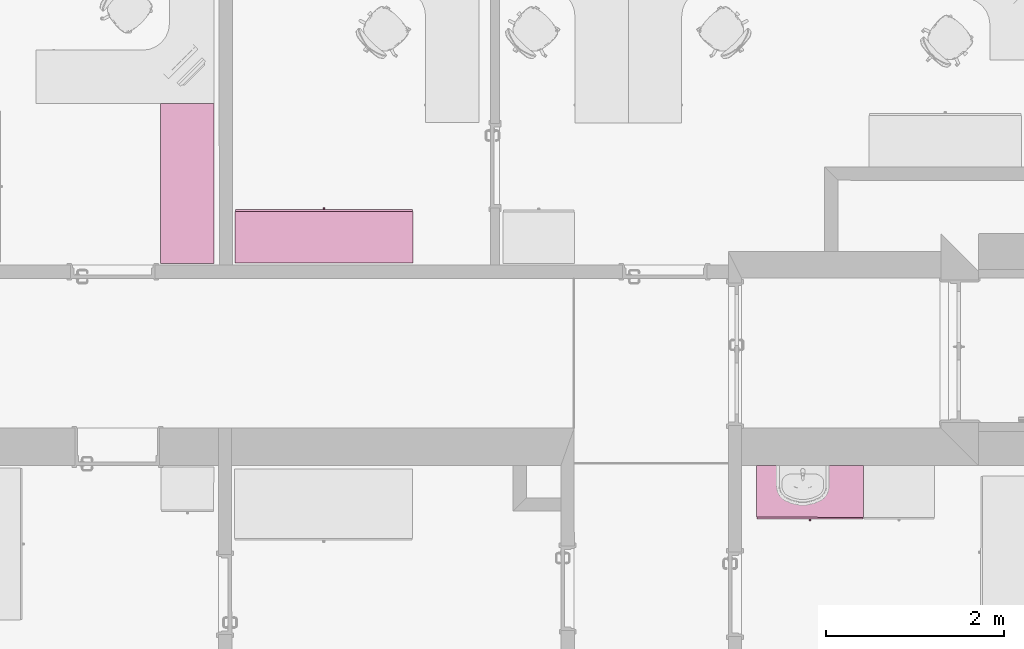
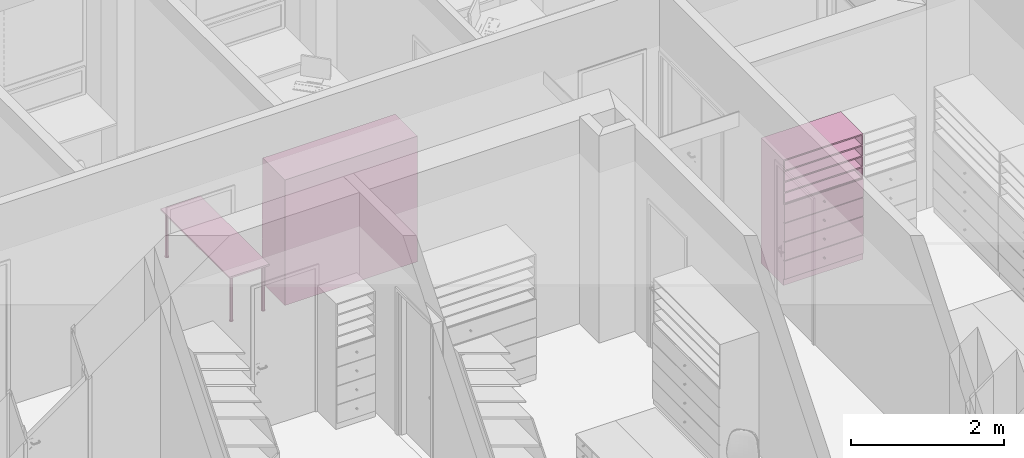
# One storey, part 186 of 194: 3 furnishings.
"""IFC2X3 building model written with IfcOpenShell, lengths in millimetres."""

from ifc_helpers import new_model, entity, si_unit, converted_unit, derived_unit, money_unit, direction, frame, origin_with_axes, place, context, subcontext, project, spatial, faceted_brep, type_object, element, save


model = new_model("IFC2X3")

# Units and contexts
model_context = context("Model", 3, precision=1e-05, world=origin_with_axes(), true_north=direction((0.0, 1.0)))
body_context = subcontext(model_context, "Body", "Model", "MODEL_VIEW")
ifc_project = project(units=[si_unit("LENGTHUNIT", "METRE", prefix="MILLI"), si_unit("AREAUNIT", "SQUARE_METRE"), si_unit("VOLUMEUNIT", "CUBIC_METRE"), converted_unit("PLANEANGLEUNIT", "DEGREE", entity("IfcPlaneAngleMeasure", 0.0174532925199), si_unit("PLANEANGLEUNIT", "RADIAN"), dimensions=[0, 0, 0, 0, 0, 0, 0]), si_unit("SOLIDANGLEUNIT", "STERADIAN"), money_unit("EUR"), converted_unit("TIMEUNIT", "Year", entity("IfcTimeMeasure", 31556926.0), si_unit("TIMEUNIT", "SECOND"), dimensions=[0, 0, 1, 0, 0, 0, 0]), si_unit("MASSUNIT", "GRAM", prefix="KILO"), si_unit("THERMODYNAMICTEMPERATUREUNIT", "DEGREE_CELSIUS"), si_unit("LUMINOUSINTENSITYUNIT", "LUMEN"), si_unit("ENERGYUNIT", "JOULE", prefix="MEGA"), derived_unit("THERMALCONDUCTANCEUNIT", [(si_unit("POWERUNIT", "WATT"), 1), (si_unit("LENGTHUNIT", "METRE"), -1), (si_unit("THERMODYNAMICTEMPERATUREUNIT", "KELVIN"), -1)]), derived_unit("SPECIFICHEATCAPACITYUNIT", [(si_unit("ENERGYUNIT", "JOULE"), 1), (si_unit("MASSUNIT", "GRAM", prefix="KILO"), -1), (si_unit("THERMODYNAMICTEMPERATUREUNIT", "KELVIN"), -1)]), derived_unit("MASSDENSITYUNIT", [(si_unit("MASSUNIT", "GRAM", prefix="KILO"), 1), (si_unit("VOLUMEUNIT", "CUBIC_METRE"), -1)])], contexts=[model_context])

# Site, building, storey
site_placement = place(None, origin_with_axes())
site = spatial("IfcSite", under=ifc_project, at=site_placement, Name="Site", CompositionType="ELEMENT")
building_placement = place(site_placement, origin_with_axes())
building = spatial("IfcBuilding", under=site, at=building_placement, Name="Building", CompositionType="ELEMENT")
storey_placement = place(building_placement, frame((0.0, 0.0, 3000.0), z_axis=(0.0, 0.0, 1.0), x_axis=(1.0, 0.0, 0.0)))
storey = spatial("IfcBuildingStorey", under=building, at=storey_placement, Name="2 KORRUS", CompositionType="ELEMENT", Elevation=3000.0)

# Furnishings
furnishing_element_type_1 = type_object("IfcFurnishingElementType", Name="Model Element 111")
furnishing_1_placement = place(storey_placement, frame((33351.9675321, 69279.1031344, 0.0), z_axis=(0.0, 0.0, 1.0), x_axis=(0.0, -1.0, 0.0)))
element("IfcFurnishingElement", 1, at=furnishing_1_placement, inside=storey, type_object=furnishing_element_type_1, Name="FU - 007", context=body_context, shape_type="Brep", body=[
    faceted_brep([(0.0, 0.0, 725.0), (1800.0, 0.0, 725.0), (1800.0, 0.0, 750.0), (0.0, 0.0, 750.0), (0.0, 600.0, 725.0), (1800.0, 600.0, 725.0), (1800.0, 600.0, 750.0), (0.0, 600.0, 750.0)], [[[0, 1, 2, 3]], [[0, 4, 5, 1]], [[1, 5, 6, 2]], [[3, 2, 6, 7]], [[4, 0, 3, 7]], [[5, 4, 7, 6]]]),
    faceted_brep([(77.6776695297, 77.6776695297, 10.0), (85.0, 60.0, 10.0), (77.6776695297, 42.3223304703, 10.0), (60.0, 35.0, 10.0), (42.3223304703, 42.3223304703, 10.0), (35.0, 60.0, 10.0), (42.3223304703, 77.6776695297, 10.0), (60.0, 85.0, 10.0), (77.6776695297, 77.6776695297, 725.0), (85.0, 60.0, 725.0), (77.6776695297, 42.3223304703, 725.0), (60.0, 35.0, 725.0), (42.3223304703, 42.3223304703, 725.0), (35.0, 60.0, 725.0), (42.3223304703, 77.6776695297, 725.0), (60.0, 85.0, 725.0)], [[[0, 1, 2, 3, 4, 5, 6, 7]], [[1, 0, 8, 9]], [[2, 1, 9, 10]], [[3, 2, 10, 11]], [[4, 3, 11, 12]], [[5, 4, 12, 13]], [[6, 5, 13, 14]], [[7, 6, 14, 15]], [[0, 7, 15, 8]], [[8, 15, 14, 13, 12, 11, 10, 9]]]),
    faceted_brep([(81.2132034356, 81.2132034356, 0.0), (90.0, 60.0, 0.0), (81.2132034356, 38.7867965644, 0.0), (60.0, 30.0, 0.0), (38.7867965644, 38.7867965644, 0.0), (30.0, 60.0, 0.0), (38.7867965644, 81.2132034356, 0.0), (60.0, 90.0, 0.0), (81.2132034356, 81.2132034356, 10.0), (90.0, 60.0, 10.0), (81.2132034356, 38.7867965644, 10.0), (60.0, 30.0, 10.0), (38.7867965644, 38.7867965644, 10.0), (30.0, 60.0, 10.0), (38.7867965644, 81.2132034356, 10.0), (60.0, 90.0, 10.0)], [[[0, 1, 2, 3, 4, 5, 6, 7]], [[1, 0, 8, 9]], [[2, 1, 9, 10]], [[3, 2, 10, 11]], [[4, 3, 11, 12]], [[5, 4, 12, 13]], [[6, 5, 13, 14]], [[7, 6, 14, 15]], [[0, 7, 15, 8]], [[8, 15, 14, 13, 12, 11, 10, 9]]]),
    faceted_brep([(77.6776695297, 557.67766953, 10.0), (85.0, 540.0, 10.0), (77.6776695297, 522.32233047, 10.0), (60.0, 515.0, 10.0), (42.3223304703, 522.32233047, 10.0), (35.0, 540.0, 10.0), (42.3223304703, 557.67766953, 10.0), (60.0, 565.0, 10.0), (77.6776695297, 557.67766953, 725.0), (85.0, 540.0, 725.0), (77.6776695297, 522.32233047, 725.0), (60.0, 515.0, 725.0), (42.3223304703, 522.32233047, 725.0), (35.0, 540.0, 725.0), (42.3223304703, 557.67766953, 725.0), (60.0, 565.0, 725.0)], [[[0, 1, 2, 3, 4, 5, 6, 7]], [[1, 0, 8, 9]], [[2, 1, 9, 10]], [[3, 2, 10, 11]], [[4, 3, 11, 12]], [[5, 4, 12, 13]], [[6, 5, 13, 14]], [[7, 6, 14, 15]], [[0, 7, 15, 8]], [[8, 15, 14, 13, 12, 11, 10, 9]]]),
    faceted_brep([(81.2132034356, 561.213203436, 0.0), (90.0, 540.0, 0.0), (81.2132034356, 518.786796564, 0.0), (60.0, 510.0, 0.0), (38.7867965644, 518.786796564, 0.0), (30.0, 540.0, 0.0), (38.7867965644, 561.213203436, 0.0), (60.0, 570.0, 0.0), (81.2132034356, 561.213203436, 10.0), (90.0, 540.0, 10.0), (81.2132034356, 518.786796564, 10.0), (60.0, 510.0, 10.0), (38.7867965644, 518.786796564, 10.0), (30.0, 540.0, 10.0), (38.7867965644, 561.213203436, 10.0), (60.0, 570.0, 10.0)], [[[0, 1, 2, 3, 4, 5, 6, 7]], [[1, 0, 8, 9]], [[2, 1, 9, 10]], [[3, 2, 10, 11]], [[4, 3, 11, 12]], [[5, 4, 12, 13]], [[6, 5, 13, 14]], [[7, 6, 14, 15]], [[0, 7, 15, 8]], [[8, 15, 14, 13, 12, 11, 10, 9]]]),
    faceted_brep([(1757.67766953, 77.6776695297, 10.0), (1765.0, 60.0, 10.0), (1757.67766953, 42.3223304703, 10.0), (1740.0, 35.0, 10.0), (1722.32233047, 42.3223304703, 10.0), (1715.0, 60.0, 10.0), (1722.32233047, 77.6776695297, 10.0), (1740.0, 85.0, 10.0), (1757.67766953, 77.6776695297, 725.0), (1765.0, 60.0, 725.0), (1757.67766953, 42.3223304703, 725.0), (1740.0, 35.0, 725.0), (1722.32233047, 42.3223304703, 725.0), (1715.0, 60.0, 725.0), (1722.32233047, 77.6776695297, 725.0), (1740.0, 85.0, 725.0)], [[[0, 1, 2, 3, 4, 5, 6, 7]], [[1, 0, 8, 9]], [[2, 1, 9, 10]], [[3, 2, 10, 11]], [[4, 3, 11, 12]], [[5, 4, 12, 13]], [[6, 5, 13, 14]], [[7, 6, 14, 15]], [[0, 7, 15, 8]], [[8, 15, 14, 13, 12, 11, 10, 9]]]),
    faceted_brep([(1761.21320344, 81.2132034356, 0.0), (1770.0, 60.0, 0.0), (1761.21320344, 38.7867965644, 0.0), (1740.0, 30.0, 0.0), (1718.78679656, 38.7867965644, 0.0), (1710.0, 60.0, 0.0), (1718.78679656, 81.2132034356, 0.0), (1740.0, 90.0, 0.0), (1761.21320344, 81.2132034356, 10.0), (1770.0, 60.0, 10.0), (1761.21320344, 38.7867965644, 10.0), (1740.0, 30.0, 10.0), (1718.78679656, 38.7867965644, 10.0), (1710.0, 60.0, 10.0), (1718.78679656, 81.2132034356, 10.0), (1740.0, 90.0, 10.0)], [[[0, 1, 2, 3, 4, 5, 6, 7]], [[1, 0, 8, 9]], [[2, 1, 9, 10]], [[3, 2, 10, 11]], [[4, 3, 11, 12]], [[5, 4, 12, 13]], [[6, 5, 13, 14]], [[7, 6, 14, 15]], [[0, 7, 15, 8]], [[8, 15, 14, 13, 12, 11, 10, 9]]]),
    faceted_brep([(1757.67766953, 557.67766953, 10.0), (1765.0, 540.0, 10.0), (1757.67766953, 522.32233047, 10.0), (1740.0, 515.0, 10.0), (1722.32233047, 522.32233047, 10.0), (1715.0, 540.0, 10.0), (1722.32233047, 557.67766953, 10.0), (1740.0, 565.0, 10.0), (1757.67766953, 557.67766953, 725.0), (1765.0, 540.0, 725.0), (1757.67766953, 522.32233047, 725.0), (1740.0, 515.0, 725.0), (1722.32233047, 522.32233047, 725.0), (1715.0, 540.0, 725.0), (1722.32233047, 557.67766953, 725.0), (1740.0, 565.0, 725.0)], [[[0, 1, 2, 3, 4, 5, 6, 7]], [[1, 0, 8, 9]], [[2, 1, 9, 10]], [[3, 2, 10, 11]], [[4, 3, 11, 12]], [[5, 4, 12, 13]], [[6, 5, 13, 14]], [[7, 6, 14, 15]], [[0, 7, 15, 8]], [[8, 15, 14, 13, 12, 11, 10, 9]]]),
    faceted_brep([(1761.21320344, 561.213203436, 0.0), (1770.0, 540.0, 0.0), (1761.21320344, 518.786796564, 0.0), (1740.0, 510.0, 0.0), (1718.78679656, 518.786796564, 0.0), (1710.0, 540.0, 0.0), (1718.78679656, 561.213203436, 0.0), (1740.0, 570.0, 0.0), (1761.21320344, 561.213203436, 10.0), (1770.0, 540.0, 10.0), (1761.21320344, 518.786796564, 10.0), (1740.0, 510.0, 10.0), (1718.78679656, 518.786796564, 10.0), (1710.0, 540.0, 10.0), (1718.78679656, 561.213203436, 10.0), (1740.0, 570.0, 10.0)], [[[0, 1, 2, 3, 4, 5, 6, 7]], [[1, 0, 8, 9]], [[2, 1, 9, 10]], [[3, 2, 10, 11]], [[4, 3, 11, 12]], [[5, 4, 12, 13]], [[6, 5, 13, 14]], [[7, 6, 14, 15]], [[0, 7, 15, 8]], [[8, 15, 14, 13, 12, 11, 10, 9]]]),
])
furnishing_element_type_2 = type_object("IfcFurnishingElementType", Name="Model Element 43")
furnishing_2_placement = place(storey_placement, frame((36190.4230052, 68087.3437104, 0.0), z_axis=(0.0, 0.0, 1.0), x_axis=(-1.0, 0.0, 0.0)))
element("IfcFurnishingElement", 2, at=furnishing_2_placement, inside=storey, type_object=furnishing_element_type_2, Name="FU - 001", context=body_context, shape_type="Brep", body=[
    faceted_brep([(2000.0, 19.0, 0.0), (0.0, 19.0, 0.0), (0.0, 600.0, 0.0), (2000.0, 600.0, 0.0), (2000.0, 19.0, 100.0), (0.0, 19.0, 100.0), (0.0, 600.0, 100.0), (2000.0, 600.0, 100.0)], [[[0, 1, 2, 3]], [[1, 0, 4, 5]], [[2, 1, 5, 6]], [[3, 2, 6, 7]], [[0, 3, 7, 4]], [[5, 4, 7, 6]]]),
    faceted_brep([(19.0, 600.0, 119.0), (19.0, 581.0, 119.0), (19.0, 581.0, 1981.0), (19.0, 600.0, 1981.0), (1981.0, 600.0, 119.0), (1981.0, 581.0, 119.0), (1981.0, 581.0, 1981.0), (1981.0, 600.0, 1981.0)], [[[0, 1, 2, 3]], [[0, 4, 5, 1]], [[1, 5, 6, 2]], [[3, 2, 6, 7]], [[4, 0, 3, 7]], [[5, 4, 7, 6]]]),
    faceted_brep([(2000.0, 19.0, 100.0), (1981.0, 19.0, 100.0), (1981.0, 600.0, 100.0), (2000.0, 600.0, 100.0), (2000.0, 19.0, 2000.0), (1981.0, 19.0, 2000.0), (1981.0, 600.0, 2000.0), (2000.0, 600.0, 2000.0)], [[[0, 1, 2, 3]], [[1, 0, 4, 5]], [[2, 1, 5, 6]], [[3, 2, 6, 7]], [[0, 3, 7, 4]], [[5, 4, 7, 6]]]),
    faceted_brep([(19.0, 19.0, 100.0), (0.0, 19.0, 100.0), (0.0, 600.0, 100.0), (19.0, 600.0, 100.0), (19.0, 19.0, 2000.0), (0.0, 19.0, 2000.0), (0.0, 600.0, 2000.0), (19.0, 600.0, 2000.0)], [[[0, 1, 2, 3]], [[1, 0, 4, 5]], [[2, 1, 5, 6]], [[3, 2, 6, 7]], [[0, 3, 7, 4]], [[5, 4, 7, 6]]]),
    faceted_brep([(1981.0, 19.0, 100.0), (19.0, 19.0, 100.0), (19.0, 600.0, 100.0), (1981.0, 600.0, 100.0), (1981.0, 19.0, 119.0), (19.0, 19.0, 119.0), (19.0, 600.0, 119.0), (1981.0, 600.0, 119.0)], [[[0, 1, 2, 3]], [[1, 0, 4, 5]], [[2, 1, 5, 6]], [[3, 2, 6, 7]], [[0, 3, 7, 4]], [[5, 4, 7, 6]]]),
    faceted_brep([(1981.0, 19.0, 1981.0), (19.0, 19.0, 1981.0), (19.0, 600.0, 1981.0), (1981.0, 600.0, 1981.0), (1981.0, 19.0, 2000.0), (19.0, 19.0, 2000.0), (19.0, 600.0, 2000.0), (1981.0, 600.0, 2000.0)], [[[0, 1, 2, 3]], [[1, 0, 4, 5]], [[2, 1, 5, 6]], [[3, 2, 6, 7]], [[0, 3, 7, 4]], [[5, 4, 7, 6]]]),
    faceted_brep([(5.0, 19.0, 105.0), (1995.0, 19.0, 105.0), (1995.0, 0.0, 105.0), (5.0, 0.0, 105.0), (5.0, 19.0, 395.0), (1995.0, 19.0, 395.0), (1995.0, 0.0, 395.0), (5.0, 0.0, 395.0)], [[[0, 1, 2, 3]], [[0, 4, 5, 1]], [[1, 5, 6, 2]], [[3, 2, 6, 7]], [[4, 0, 3, 7]], [[5, 4, 7, 6]]]),
    faceted_brep([(1010.39230485, 0.0, 244.0), (1006.0, 0.0, 239.607695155), (1000.0, 0.0, 238.0), (994.0, 0.0, 239.607695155), (989.607695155, 0.0, 244.0), (988.0, 0.0, 250.0), (989.607695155, 0.0, 256.0), (994.0, 0.0, 260.392304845), (1000.0, 0.0, 262.0), (1006.0, 0.0, 260.392304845), (1010.39230485, 0.0, 256.0), (1012.0, 0.0, 250.0), (1010.39230485, -25.0, 244.0), (1006.0, -25.0, 239.607695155), (1000.0, -25.0, 238.0), (994.0, -25.0, 239.607695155), (989.607695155, -25.0, 244.0), (988.0, -25.0, 250.0), (989.607695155, -25.0, 256.0), (994.0, -25.0, 260.392304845), (1000.0, -25.0, 262.0), (1006.0, -25.0, 260.392304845), (1010.39230485, -25.0, 256.0), (1012.0, -25.0, 250.0)], [[[0, 1, 2, 3, 4, 5, 6, 7, 8, 9, 10, 11]], [[1, 0, 12, 13]], [[2, 1, 13, 14]], [[3, 2, 14, 15]], [[4, 3, 15, 16]], [[5, 4, 16, 17]], [[6, 5, 17, 18]], [[7, 6, 18, 19]], [[8, 7, 19, 20]], [[9, 8, 20, 21]], [[10, 9, 21, 22]], [[11, 10, 22, 23]], [[0, 11, 23, 12]], [[12, 23, 22, 21, 20, 19, 18, 17, 16, 15, 14, 13]]]),
    faceted_brep([(5.0, 19.0, 405.0), (1995.0, 19.0, 405.0), (1995.0, 0.0, 405.0), (5.0, 0.0, 405.0), (5.0, 19.0, 695.0), (1995.0, 19.0, 695.0), (1995.0, 0.0, 695.0), (5.0, 0.0, 695.0)], [[[0, 1, 2, 3]], [[0, 4, 5, 1]], [[1, 5, 6, 2]], [[3, 2, 6, 7]], [[4, 0, 3, 7]], [[5, 4, 7, 6]]]),
    faceted_brep([(1010.39230485, 0.0, 544.0), (1006.0, 0.0, 539.607695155), (1000.0, 0.0, 538.0), (994.0, 0.0, 539.607695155), (989.607695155, 0.0, 544.0), (988.0, 0.0, 550.0), (989.607695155, 0.0, 556.0), (994.0, 0.0, 560.392304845), (1000.0, 0.0, 562.0), (1006.0, 0.0, 560.392304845), (1010.39230485, 0.0, 556.0), (1012.0, 0.0, 550.0), (1010.39230485, -25.0, 544.0), (1006.0, -25.0, 539.607695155), (1000.0, -25.0, 538.0), (994.0, -25.0, 539.607695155), (989.607695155, -25.0, 544.0), (988.0, -25.0, 550.0), (989.607695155, -25.0, 556.0), (994.0, -25.0, 560.392304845), (1000.0, -25.0, 562.0), (1006.0, -25.0, 560.392304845), (1010.39230485, -25.0, 556.0), (1012.0, -25.0, 550.0)], [[[0, 1, 2, 3, 4, 5, 6, 7, 8, 9, 10, 11]], [[1, 0, 12, 13]], [[2, 1, 13, 14]], [[3, 2, 14, 15]], [[4, 3, 15, 16]], [[5, 4, 16, 17]], [[6, 5, 17, 18]], [[7, 6, 18, 19]], [[8, 7, 19, 20]], [[9, 8, 20, 21]], [[10, 9, 21, 22]], [[11, 10, 22, 23]], [[0, 11, 23, 12]], [[12, 23, 22, 21, 20, 19, 18, 17, 16, 15, 14, 13]]]),
    faceted_brep([(5.0, 19.0, 705.0), (1995.0, 19.0, 705.0), (1995.0, 0.0, 705.0), (5.0, 0.0, 705.0), (5.0, 19.0, 995.0), (1995.0, 19.0, 995.0), (1995.0, 0.0, 995.0), (5.0, 0.0, 995.0)], [[[0, 1, 2, 3]], [[0, 4, 5, 1]], [[1, 5, 6, 2]], [[3, 2, 6, 7]], [[4, 0, 3, 7]], [[5, 4, 7, 6]]]),
    faceted_brep([(1010.39230485, 0.0, 844.0), (1006.0, 0.0, 839.607695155), (1000.0, 0.0, 838.0), (994.0, 0.0, 839.607695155), (989.607695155, 0.0, 844.0), (988.0, 0.0, 850.0), (989.607695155, 0.0, 856.0), (994.0, 0.0, 860.392304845), (1000.0, 0.0, 862.0), (1006.0, 0.0, 860.392304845), (1010.39230485, 0.0, 856.0), (1012.0, 0.0, 850.0), (1010.39230485, -25.0, 844.0), (1006.0, -25.0, 839.607695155), (1000.0, -25.0, 838.0), (994.0, -25.0, 839.607695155), (989.607695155, -25.0, 844.0), (988.0, -25.0, 850.0), (989.607695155, -25.0, 856.0), (994.0, -25.0, 860.392304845), (1000.0, -25.0, 862.0), (1006.0, -25.0, 860.392304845), (1010.39230485, -25.0, 856.0), (1012.0, -25.0, 850.0)], [[[0, 1, 2, 3, 4, 5, 6, 7, 8, 9, 10, 11]], [[1, 0, 12, 13]], [[2, 1, 13, 14]], [[3, 2, 14, 15]], [[4, 3, 15, 16]], [[5, 4, 16, 17]], [[6, 5, 17, 18]], [[7, 6, 18, 19]], [[8, 7, 19, 20]], [[9, 8, 20, 21]], [[10, 9, 21, 22]], [[11, 10, 22, 23]], [[0, 11, 23, 12]], [[12, 23, 22, 21, 20, 19, 18, 17, 16, 15, 14, 13]]]),
    faceted_brep([(5.0, 19.0, 1005.0), (1995.0, 19.0, 1005.0), (1995.0, 0.0, 1005.0), (5.0, 0.0, 1005.0), (5.0, 19.0, 1295.0), (1995.0, 19.0, 1295.0), (1995.0, 0.0, 1295.0), (5.0, 0.0, 1295.0)], [[[0, 1, 2, 3]], [[0, 4, 5, 1]], [[1, 5, 6, 2]], [[3, 2, 6, 7]], [[4, 0, 3, 7]], [[5, 4, 7, 6]]]),
    faceted_brep([(1010.39230485, 0.0, 1144.0), (1006.0, 0.0, 1139.60769515), (1000.0, 0.0, 1138.0), (994.0, 0.0, 1139.60769515), (989.607695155, 0.0, 1144.0), (988.0, 0.0, 1150.0), (989.607695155, 0.0, 1156.0), (994.0, 0.0, 1160.39230485), (1000.0, 0.0, 1162.0), (1006.0, 0.0, 1160.39230485), (1010.39230485, 0.0, 1156.0), (1012.0, 0.0, 1150.0), (1010.39230485, -25.0, 1144.0), (1006.0, -25.0, 1139.60769515), (1000.0, -25.0, 1138.0), (994.0, -25.0, 1139.60769515), (989.607695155, -25.0, 1144.0), (988.0, -25.0, 1150.0), (989.607695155, -25.0, 1156.0), (994.0, -25.0, 1160.39230485), (1000.0, -25.0, 1162.0), (1006.0, -25.0, 1160.39230485), (1010.39230485, -25.0, 1156.0), (1012.0, -25.0, 1150.0)], [[[0, 1, 2, 3, 4, 5, 6, 7, 8, 9, 10, 11]], [[1, 0, 12, 13]], [[2, 1, 13, 14]], [[3, 2, 14, 15]], [[4, 3, 15, 16]], [[5, 4, 16, 17]], [[6, 5, 17, 18]], [[7, 6, 18, 19]], [[8, 7, 19, 20]], [[9, 8, 20, 21]], [[10, 9, 21, 22]], [[11, 10, 22, 23]], [[0, 11, 23, 12]], [[12, 23, 22, 21, 20, 19, 18, 17, 16, 15, 14, 13]]]),
    faceted_brep([(19.0, 19.0, 390.5), (1981.0, 19.0, 390.5), (1981.0, 19.0, 409.5), (19.0, 19.0, 409.5), (19.0, 581.0, 390.5), (1981.0, 581.0, 390.5), (1981.0, 581.0, 409.5), (19.0, 581.0, 409.5)], [[[0, 1, 2, 3]], [[0, 4, 5, 1]], [[1, 5, 6, 2]], [[3, 2, 6, 7]], [[4, 0, 3, 7]], [[5, 4, 7, 6]]]),
    faceted_brep([(19.0, 19.0, 690.5), (1981.0, 19.0, 690.5), (1981.0, 19.0, 709.5), (19.0, 19.0, 709.5), (19.0, 581.0, 690.5), (1981.0, 581.0, 690.5), (1981.0, 581.0, 709.5), (19.0, 581.0, 709.5)], [[[0, 1, 2, 3]], [[0, 4, 5, 1]], [[1, 5, 6, 2]], [[3, 2, 6, 7]], [[4, 0, 3, 7]], [[5, 4, 7, 6]]]),
    faceted_brep([(19.0, 19.0, 990.5), (1981.0, 19.0, 990.5), (1981.0, 19.0, 1009.5), (19.0, 19.0, 1009.5), (19.0, 581.0, 990.5), (1981.0, 581.0, 990.5), (1981.0, 581.0, 1009.5), (19.0, 581.0, 1009.5)], [[[0, 1, 2, 3]], [[0, 4, 5, 1]], [[1, 5, 6, 2]], [[3, 2, 6, 7]], [[4, 0, 3, 7]], [[5, 4, 7, 6]]]),
    faceted_brep([(19.0, 19.0, 1290.5), (1981.0, 19.0, 1290.5), (1981.0, 19.0, 1309.5), (19.0, 19.0, 1309.5), (19.0, 581.0, 1290.5), (1981.0, 581.0, 1290.5), (1981.0, 581.0, 1309.5), (19.0, 581.0, 1309.5)], [[[0, 1, 2, 3]], [[0, 4, 5, 1]], [[1, 5, 6, 2]], [[3, 2, 6, 7]], [[4, 0, 3, 7]], [[5, 4, 7, 6]]]),
    faceted_brep([(1981.0, 19.0, 1463.125), (19.0, 19.0, 1463.125), (19.0, 581.0, 1463.125), (1981.0, 581.0, 1463.125), (1981.0, 19.0, 1482.125), (19.0, 19.0, 1482.125), (19.0, 581.0, 1482.125), (1981.0, 581.0, 1482.125)], [[[0, 1, 2, 3]], [[1, 0, 4, 5]], [[2, 1, 5, 6]], [[3, 2, 6, 7]], [[0, 3, 7, 4]], [[5, 4, 7, 6]]]),
    faceted_brep([(1981.0, 19.0, 1635.75), (19.0, 19.0, 1635.75), (19.0, 581.0, 1635.75), (1981.0, 581.0, 1635.75), (1981.0, 19.0, 1654.75), (19.0, 19.0, 1654.75), (19.0, 581.0, 1654.75), (1981.0, 581.0, 1654.75)], [[[0, 1, 2, 3]], [[1, 0, 4, 5]], [[2, 1, 5, 6]], [[3, 2, 6, 7]], [[0, 3, 7, 4]], [[5, 4, 7, 6]]]),
    faceted_brep([(1981.0, 19.0, 1808.375), (19.0, 19.0, 1808.375), (19.0, 581.0, 1808.375), (1981.0, 581.0, 1808.375), (1981.0, 19.0, 1827.375), (19.0, 19.0, 1827.375), (19.0, 581.0, 1827.375), (1981.0, 581.0, 1827.375)], [[[0, 1, 2, 3]], [[1, 0, 4, 5]], [[2, 1, 5, 6]], [[3, 2, 6, 7]], [[0, 3, 7, 4]], [[5, 4, 7, 6]]]),
])
furnishing_element_type_3 = type_object("IfcFurnishingElementType", Name="Model Element 40")
furnishing_3_placement = place(storey_placement, frame((40051.2202258, 64610.5426066, 0.0), z_axis=(0.0, 0.0, 1.0), x_axis=(0.999999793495, -0.00064265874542, 0.0)))
element("IfcFurnishingElement", 3, at=furnishing_3_placement, inside=storey, type_object=furnishing_element_type_3, Name="FU - 001", context=body_context, shape_type="Brep", body=[
    faceted_brep([(1200.05251651, 19.0, 0.0), (0.0, 19.0, 0.0), (0.0, 600.257097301, 0.0), (1200.05251651, 600.257097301, 0.0), (1200.05251651, 19.0, 100.0), (0.0, 19.0, 100.0), (0.0, 600.257097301, 100.0), (1200.05251651, 600.257097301, 100.0)], [[[0, 1, 2, 3]], [[1, 0, 4, 5]], [[2, 1, 5, 6]], [[3, 2, 6, 7]], [[0, 3, 7, 4]], [[5, 4, 7, 6]]]),
    faceted_brep([(19.0, 600.257097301, 119.0), (19.0, 581.257097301, 119.0), (19.0, 581.257097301, 1981.0), (19.0, 600.257097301, 1981.0), (1181.05251651, 600.257097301, 119.0), (1181.05251651, 581.257097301, 119.0), (1181.05251651, 581.257097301, 1981.0), (1181.05251651, 600.257097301, 1981.0)], [[[0, 1, 2, 3]], [[0, 4, 5, 1]], [[1, 5, 6, 2]], [[3, 2, 6, 7]], [[4, 0, 3, 7]], [[5, 4, 7, 6]]]),
    faceted_brep([(1200.05251651, 19.0, 100.0), (1181.05251651, 19.0, 100.0), (1181.05251651, 600.257097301, 100.0), (1200.05251651, 600.257097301, 100.0), (1200.05251651, 19.0, 2000.0), (1181.05251651, 19.0, 2000.0), (1181.05251651, 600.257097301, 2000.0), (1200.05251651, 600.257097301, 2000.0)], [[[0, 1, 2, 3]], [[1, 0, 4, 5]], [[2, 1, 5, 6]], [[3, 2, 6, 7]], [[0, 3, 7, 4]], [[5, 4, 7, 6]]]),
    faceted_brep([(19.0, 19.0, 100.0), (0.0, 19.0, 100.0), (0.0, 600.257097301, 100.0), (19.0, 600.257097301, 100.0), (19.0, 19.0, 2000.0), (0.0, 19.0, 2000.0), (0.0, 600.257097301, 2000.0), (19.0, 600.257097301, 2000.0)], [[[0, 1, 2, 3]], [[1, 0, 4, 5]], [[2, 1, 5, 6]], [[3, 2, 6, 7]], [[0, 3, 7, 4]], [[5, 4, 7, 6]]]),
    faceted_brep([(1181.05251651, 19.0, 100.0), (19.0, 19.0, 100.0), (19.0, 600.257097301, 100.0), (1181.05251651, 600.257097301, 100.0), (1181.05251651, 19.0, 119.0), (19.0, 19.0, 119.0), (19.0, 600.257097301, 119.0), (1181.05251651, 600.257097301, 119.0)], [[[0, 1, 2, 3]], [[1, 0, 4, 5]], [[2, 1, 5, 6]], [[3, 2, 6, 7]], [[0, 3, 7, 4]], [[5, 4, 7, 6]]]),
    faceted_brep([(1181.05251651, 19.0, 1981.0), (19.0, 19.0, 1981.0), (19.0, 600.257097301, 1981.0), (1181.05251651, 600.257097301, 1981.0), (1181.05251651, 19.0, 2000.0), (19.0, 19.0, 2000.0), (19.0, 600.257097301, 2000.0), (1181.05251651, 600.257097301, 2000.0)], [[[0, 1, 2, 3]], [[1, 0, 4, 5]], [[2, 1, 5, 6]], [[3, 2, 6, 7]], [[0, 3, 7, 4]], [[5, 4, 7, 6]]]),
    faceted_brep([(5.0, 19.0, 105.0), (1195.05251651, 19.0, 105.0), (1195.05251651, 0.0, 105.0), (5.0, 0.0, 105.0), (5.0, 19.0, 395.0), (1195.05251651, 19.0, 395.0), (1195.05251651, 0.0, 395.0), (5.0, 0.0, 395.0)], [[[0, 1, 2, 3]], [[0, 4, 5, 1]], [[1, 5, 6, 2]], [[3, 2, 6, 7]], [[4, 0, 3, 7]], [[5, 4, 7, 6]]]),
    faceted_brep([(610.418563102, 0.0, 244.0), (606.026258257, 0.0, 239.607695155), (600.026258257, 0.0, 238.0), (594.026258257, 0.0, 239.607695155), (589.633953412, 0.0, 244.0), (588.026258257, 0.0, 250.0), (589.633953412, 0.0, 256.0), (594.026258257, 0.0, 260.392304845), (600.026258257, 0.0, 262.0), (606.026258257, 0.0, 260.392304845), (610.418563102, 0.0, 256.0), (612.026258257, 0.0, 250.0), (610.418563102, -25.0, 244.0), (606.026258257, -25.0, 239.607695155), (600.026258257, -25.0, 238.0), (594.026258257, -25.0, 239.607695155), (589.633953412, -25.0, 244.0), (588.026258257, -25.0, 250.0), (589.633953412, -25.0, 256.0), (594.026258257, -25.0, 260.392304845), (600.026258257, -25.0, 262.0), (606.026258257, -25.0, 260.392304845), (610.418563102, -25.0, 256.0), (612.026258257, -25.0, 250.0)], [[[0, 1, 2, 3, 4, 5, 6, 7, 8, 9, 10, 11]], [[1, 0, 12, 13]], [[2, 1, 13, 14]], [[3, 2, 14, 15]], [[4, 3, 15, 16]], [[5, 4, 16, 17]], [[6, 5, 17, 18]], [[7, 6, 18, 19]], [[8, 7, 19, 20]], [[9, 8, 20, 21]], [[10, 9, 21, 22]], [[11, 10, 22, 23]], [[0, 11, 23, 12]], [[12, 23, 22, 21, 20, 19, 18, 17, 16, 15, 14, 13]]]),
    faceted_brep([(5.0, 19.0, 405.0), (1195.05251651, 19.0, 405.0), (1195.05251651, 0.0, 405.0), (5.0, 0.0, 405.0), (5.0, 19.0, 695.0), (1195.05251651, 19.0, 695.0), (1195.05251651, 0.0, 695.0), (5.0, 0.0, 695.0)], [[[0, 1, 2, 3]], [[0, 4, 5, 1]], [[1, 5, 6, 2]], [[3, 2, 6, 7]], [[4, 0, 3, 7]], [[5, 4, 7, 6]]]),
    faceted_brep([(610.418563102, 0.0, 544.0), (606.026258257, 0.0, 539.607695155), (600.026258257, 0.0, 538.0), (594.026258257, 0.0, 539.607695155), (589.633953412, 0.0, 544.0), (588.026258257, 0.0, 550.0), (589.633953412, 0.0, 556.0), (594.026258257, 0.0, 560.392304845), (600.026258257, 0.0, 562.0), (606.026258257, 0.0, 560.392304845), (610.418563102, 0.0, 556.0), (612.026258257, 0.0, 550.0), (610.418563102, -25.0, 544.0), (606.026258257, -25.0, 539.607695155), (600.026258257, -25.0, 538.0), (594.026258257, -25.0, 539.607695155), (589.633953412, -25.0, 544.0), (588.026258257, -25.0, 550.0), (589.633953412, -25.0, 556.0), (594.026258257, -25.0, 560.392304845), (600.026258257, -25.0, 562.0), (606.026258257, -25.0, 560.392304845), (610.418563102, -25.0, 556.0), (612.026258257, -25.0, 550.0)], [[[0, 1, 2, 3, 4, 5, 6, 7, 8, 9, 10, 11]], [[1, 0, 12, 13]], [[2, 1, 13, 14]], [[3, 2, 14, 15]], [[4, 3, 15, 16]], [[5, 4, 16, 17]], [[6, 5, 17, 18]], [[7, 6, 18, 19]], [[8, 7, 19, 20]], [[9, 8, 20, 21]], [[10, 9, 21, 22]], [[11, 10, 22, 23]], [[0, 11, 23, 12]], [[12, 23, 22, 21, 20, 19, 18, 17, 16, 15, 14, 13]]]),
    faceted_brep([(5.0, 19.0, 705.0), (1195.05251651, 19.0, 705.0), (1195.05251651, 0.0, 705.0), (5.0, 0.0, 705.0), (5.0, 19.0, 995.0), (1195.05251651, 19.0, 995.0), (1195.05251651, 0.0, 995.0), (5.0, 0.0, 995.0)], [[[0, 1, 2, 3]], [[0, 4, 5, 1]], [[1, 5, 6, 2]], [[3, 2, 6, 7]], [[4, 0, 3, 7]], [[5, 4, 7, 6]]]),
    faceted_brep([(610.418563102, 0.0, 844.0), (606.026258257, 0.0, 839.607695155), (600.026258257, 0.0, 838.0), (594.026258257, 0.0, 839.607695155), (589.633953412, 0.0, 844.0), (588.026258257, 0.0, 850.0), (589.633953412, 0.0, 856.0), (594.026258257, 0.0, 860.392304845), (600.026258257, 0.0, 862.0), (606.026258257, 0.0, 860.392304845), (610.418563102, 0.0, 856.0), (612.026258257, 0.0, 850.0), (610.418563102, -25.0, 844.0), (606.026258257, -25.0, 839.607695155), (600.026258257, -25.0, 838.0), (594.026258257, -25.0, 839.607695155), (589.633953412, -25.0, 844.0), (588.026258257, -25.0, 850.0), (589.633953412, -25.0, 856.0), (594.026258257, -25.0, 860.392304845), (600.026258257, -25.0, 862.0), (606.026258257, -25.0, 860.392304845), (610.418563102, -25.0, 856.0), (612.026258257, -25.0, 850.0)], [[[0, 1, 2, 3, 4, 5, 6, 7, 8, 9, 10, 11]], [[1, 0, 12, 13]], [[2, 1, 13, 14]], [[3, 2, 14, 15]], [[4, 3, 15, 16]], [[5, 4, 16, 17]], [[6, 5, 17, 18]], [[7, 6, 18, 19]], [[8, 7, 19, 20]], [[9, 8, 20, 21]], [[10, 9, 21, 22]], [[11, 10, 22, 23]], [[0, 11, 23, 12]], [[12, 23, 22, 21, 20, 19, 18, 17, 16, 15, 14, 13]]]),
    faceted_brep([(5.0, 19.0, 1005.0), (1195.05251651, 19.0, 1005.0), (1195.05251651, 0.0, 1005.0), (5.0, 0.0, 1005.0), (5.0, 19.0, 1295.0), (1195.05251651, 19.0, 1295.0), (1195.05251651, 0.0, 1295.0), (5.0, 0.0, 1295.0)], [[[0, 1, 2, 3]], [[0, 4, 5, 1]], [[1, 5, 6, 2]], [[3, 2, 6, 7]], [[4, 0, 3, 7]], [[5, 4, 7, 6]]]),
    faceted_brep([(610.418563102, 0.0, 1144.0), (606.026258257, 0.0, 1139.60769515), (600.026258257, 0.0, 1138.0), (594.026258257, 0.0, 1139.60769515), (589.633953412, 0.0, 1144.0), (588.026258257, 0.0, 1150.0), (589.633953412, 0.0, 1156.0), (594.026258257, 0.0, 1160.39230485), (600.026258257, 0.0, 1162.0), (606.026258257, 0.0, 1160.39230485), (610.418563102, 0.0, 1156.0), (612.026258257, 0.0, 1150.0), (610.418563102, -25.0, 1144.0), (606.026258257, -25.0, 1139.60769515), (600.026258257, -25.0, 1138.0), (594.026258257, -25.0, 1139.60769515), (589.633953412, -25.0, 1144.0), (588.026258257, -25.0, 1150.0), (589.633953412, -25.0, 1156.0), (594.026258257, -25.0, 1160.39230485), (600.026258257, -25.0, 1162.0), (606.026258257, -25.0, 1160.39230485), (610.418563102, -25.0, 1156.0), (612.026258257, -25.0, 1150.0)], [[[0, 1, 2, 3, 4, 5, 6, 7, 8, 9, 10, 11]], [[1, 0, 12, 13]], [[2, 1, 13, 14]], [[3, 2, 14, 15]], [[4, 3, 15, 16]], [[5, 4, 16, 17]], [[6, 5, 17, 18]], [[7, 6, 18, 19]], [[8, 7, 19, 20]], [[9, 8, 20, 21]], [[10, 9, 21, 22]], [[11, 10, 22, 23]], [[0, 11, 23, 12]], [[12, 23, 22, 21, 20, 19, 18, 17, 16, 15, 14, 13]]]),
    faceted_brep([(19.0, 19.0, 390.5), (1181.05251651, 19.0, 390.5), (1181.05251651, 19.0, 409.5), (19.0, 19.0, 409.5), (19.0, 581.257097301, 390.5), (1181.05251651, 581.257097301, 390.5), (1181.05251651, 581.257097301, 409.5), (19.0, 581.257097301, 409.5)], [[[0, 1, 2, 3]], [[0, 4, 5, 1]], [[1, 5, 6, 2]], [[3, 2, 6, 7]], [[4, 0, 3, 7]], [[5, 4, 7, 6]]]),
    faceted_brep([(19.0, 19.0, 690.5), (1181.05251651, 19.0, 690.5), (1181.05251651, 19.0, 709.5), (19.0, 19.0, 709.5), (19.0, 581.257097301, 690.5), (1181.05251651, 581.257097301, 690.5), (1181.05251651, 581.257097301, 709.5), (19.0, 581.257097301, 709.5)], [[[0, 1, 2, 3]], [[0, 4, 5, 1]], [[1, 5, 6, 2]], [[3, 2, 6, 7]], [[4, 0, 3, 7]], [[5, 4, 7, 6]]]),
    faceted_brep([(19.0, 19.0, 990.5), (1181.05251651, 19.0, 990.5), (1181.05251651, 19.0, 1009.5), (19.0, 19.0, 1009.5), (19.0, 581.257097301, 990.5), (1181.05251651, 581.257097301, 990.5), (1181.05251651, 581.257097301, 1009.5), (19.0, 581.257097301, 1009.5)], [[[0, 1, 2, 3]], [[0, 4, 5, 1]], [[1, 5, 6, 2]], [[3, 2, 6, 7]], [[4, 0, 3, 7]], [[5, 4, 7, 6]]]),
    faceted_brep([(19.0, 19.0, 1290.5), (1181.05251651, 19.0, 1290.5), (1181.05251651, 19.0, 1309.5), (19.0, 19.0, 1309.5), (19.0, 581.257097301, 1290.5), (1181.05251651, 581.257097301, 1290.5), (1181.05251651, 581.257097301, 1309.5), (19.0, 581.257097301, 1309.5)], [[[0, 1, 2, 3]], [[0, 4, 5, 1]], [[1, 5, 6, 2]], [[3, 2, 6, 7]], [[4, 0, 3, 7]], [[5, 4, 7, 6]]]),
    faceted_brep([(1181.05251651, 19.0, 1463.125), (19.0, 19.0, 1463.125), (19.0, 581.257097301, 1463.125), (1181.05251651, 581.257097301, 1463.125), (1181.05251651, 19.0, 1482.125), (19.0, 19.0, 1482.125), (19.0, 581.257097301, 1482.125), (1181.05251651, 581.257097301, 1482.125)], [[[0, 1, 2, 3]], [[1, 0, 4, 5]], [[2, 1, 5, 6]], [[3, 2, 6, 7]], [[0, 3, 7, 4]], [[5, 4, 7, 6]]]),
    faceted_brep([(1181.05251651, 19.0, 1635.75), (19.0, 19.0, 1635.75), (19.0, 581.257097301, 1635.75), (1181.05251651, 581.257097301, 1635.75), (1181.05251651, 19.0, 1654.75), (19.0, 19.0, 1654.75), (19.0, 581.257097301, 1654.75), (1181.05251651, 581.257097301, 1654.75)], [[[0, 1, 2, 3]], [[1, 0, 4, 5]], [[2, 1, 5, 6]], [[3, 2, 6, 7]], [[0, 3, 7, 4]], [[5, 4, 7, 6]]]),
    faceted_brep([(1181.05251651, 19.0, 1808.375), (19.0, 19.0, 1808.375), (19.0, 581.257097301, 1808.375), (1181.05251651, 581.257097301, 1808.375), (1181.05251651, 19.0, 1827.375), (19.0, 19.0, 1827.375), (19.0, 581.257097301, 1827.375), (1181.05251651, 581.257097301, 1827.375)], [[[0, 1, 2, 3]], [[1, 0, 4, 5]], [[2, 1, 5, 6]], [[3, 2, 6, 7]], [[0, 3, 7, 4]], [[5, 4, 7, 6]]]),
])

save(model, "model.ifc")
